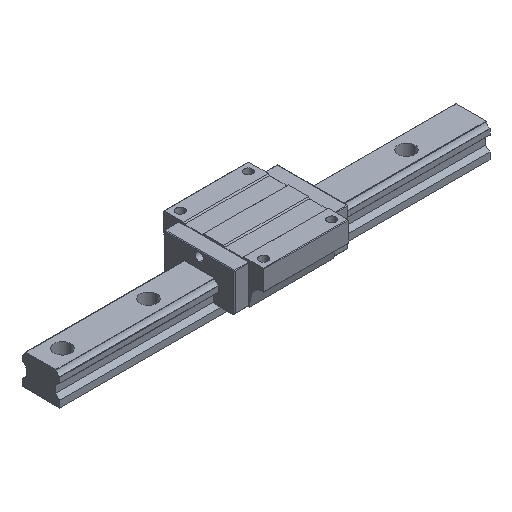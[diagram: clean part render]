
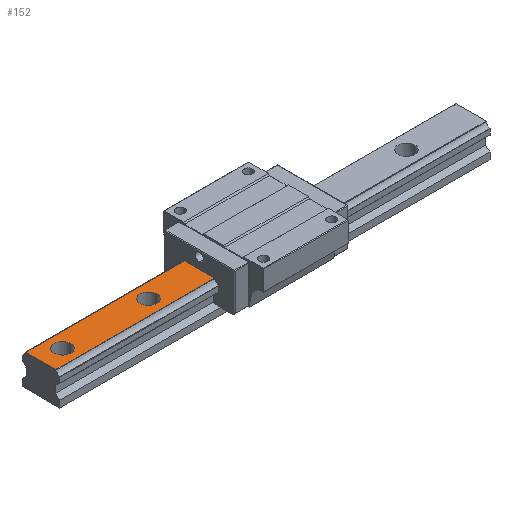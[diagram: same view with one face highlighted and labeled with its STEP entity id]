
A CAD part, isometric view. The second image highlights one B-rep face of the part: STEP entity #152.
In plain terms, the highlighted planar face has unit normal (0, 0, 1).
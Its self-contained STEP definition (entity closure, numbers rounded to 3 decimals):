
#61 = CIRCLE ( 'NONE', #1529, 11.5 ) ;
#152 = ADVANCED_FACE ( 'NONE', ( #3459, #5338, #1133 ), #684, .F. ) ;
#210 = CARTESIAN_POINT ( 'NONE',  ( -79.2, -20.932, 44. ) ) ;
#385 = CIRCLE ( 'NONE', #4496, 11.5 ) ;
#436 = DIRECTION ( 'NONE',  ( -1., 0., 0. ) ) ;
#474 = ORIENTED_EDGE ( 'NONE', *, *, #1862, .T. ) ;
#684 = PLANE ( 'NONE',  #5119 ) ;
#702 = VERTEX_POINT ( 'NONE', #4248 ) ;
#1049 = CARTESIAN_POINT ( 'NONE',  ( -270., 0., 44. ) ) ;
#1113 = DIRECTION ( 'NONE',  ( 0., -1., 0. ) ) ;
#1133 = FACE_OUTER_BOUND ( 'NONE', #3842, .T. ) ;
#1290 = CARTESIAN_POINT ( 'NONE',  ( -79.2, 20.932, 44. ) ) ;
#1353 = CARTESIAN_POINT ( 'NONE',  ( 300., 20.932, 44. ) ) ;
#1396 = CARTESIAN_POINT ( 'NONE',  ( -270., 0., 44. ) ) ;
#1467 = EDGE_CURVE ( 'NONE', #2588, #3732, #5406, .T. ) ;
#1510 = CARTESIAN_POINT ( 'NONE',  ( 300., 0., 44. ) ) ;
#1529 = AXIS2_PLACEMENT_3D ( 'NONE', #1396, #5193, #5133 ) ;
#1624 = DIRECTION ( 'NONE',  ( 1., 0., 0. ) ) ;
#1661 = ORIENTED_EDGE ( 'NONE', *, *, #4969, .T. ) ;
#1736 = ORIENTED_EDGE ( 'NONE', *, *, #1467, .T. ) ;
#1755 = AXIS2_PLACEMENT_3D ( 'NONE', #4296, #4325, #3762 ) ;
#1862 = EDGE_CURVE ( 'NONE', #5422, #2588, #5554, .T. ) ;
#1867 = EDGE_LOOP ( 'NONE', ( #2842, #5043 ) ) ;
#2000 = EDGE_LOOP ( 'NONE', ( #6023, #1661 ) ) ;
#2081 = VECTOR ( 'NONE', #1113, 1000. ) ;
#2141 = AXIS2_PLACEMENT_3D ( 'NONE', #2317, #5980, #5513 ) ;
#2317 = CARTESIAN_POINT ( 'NONE',  ( -150., 0., 44. ) ) ;
#2343 = CARTESIAN_POINT ( 'NONE',  ( -138.5, 0., 44. ) ) ;
#2487 = EDGE_CURVE ( 'NONE', #2830, #4533, #4395, .T. ) ;
#2509 = CARTESIAN_POINT ( 'NONE',  ( -79.2, -20.932, 44. ) ) ;
#2544 = DIRECTION ( 'NONE',  ( 0., 0., -1. ) ) ;
#2588 = VERTEX_POINT ( 'NONE', #3430 ) ;
#2830 = VERTEX_POINT ( 'NONE', #2343 ) ;
#2842 = ORIENTED_EDGE ( 'NONE', *, *, #5934, .T. ) ;
#2847 = EDGE_CURVE ( 'NONE', #702, #3699, #61, .T. ) ;
#2877 = DIRECTION ( 'NONE',  ( -1., 0., 0. ) ) ;
#2912 = DIRECTION ( 'NONE',  ( 0., 0., -1. ) ) ;
#3327 = EDGE_CURVE ( 'NONE', #5422, #5256, #4861, .T. ) ;
#3399 = CARTESIAN_POINT ( 'NONE',  ( -258.5, 0., 44. ) ) ;
#3430 = CARTESIAN_POINT ( 'NONE',  ( -300., 20.932, 44. ) ) ;
#3459 = FACE_BOUND ( 'NONE', #2000, .T. ) ;
#3465 = DIRECTION ( 'NONE',  ( 0., -1., 0. ) ) ;
#3513 = LINE ( 'NONE', #4514, #4865 ) ;
#3699 = VERTEX_POINT ( 'NONE', #3399 ) ;
#3732 = VERTEX_POINT ( 'NONE', #5312 ) ;
#3762 = DIRECTION ( 'NONE',  ( -1., 0., 0. ) ) ;
#3842 = EDGE_LOOP ( 'NONE', ( #5778, #4979, #474, #1736 ) ) ;
#4248 = CARTESIAN_POINT ( 'NONE',  ( -281.5, 0., 44. ) ) ;
#4296 = CARTESIAN_POINT ( 'NONE',  ( -150., 0., 44. ) ) ;
#4325 = DIRECTION ( 'NONE',  ( 0., 0., -1. ) ) ;
#4359 = EDGE_CURVE ( 'NONE', #3732, #5256, #3513, .T. ) ;
#4367 = CARTESIAN_POINT ( 'NONE',  ( -300., 0., 44. ) ) ;
#4395 = CIRCLE ( 'NONE', #1755, 11.5 ) ;
#4426 = DIRECTION ( 'NONE',  ( 0., -1., 0. ) ) ;
#4496 = AXIS2_PLACEMENT_3D ( 'NONE', #1049, #2912, #2877 ) ;
#4514 = CARTESIAN_POINT ( 'NONE',  ( 300., -20.932, 44. ) ) ;
#4533 = VERTEX_POINT ( 'NONE', #4683 ) ;
#4683 = CARTESIAN_POINT ( 'NONE',  ( -161.5, 0., 44. ) ) ;
#4861 = LINE ( 'NONE', #210, #5097 ) ;
#4865 = VECTOR ( 'NONE', #1624, 1000. ) ;
#4969 = EDGE_CURVE ( 'NONE', #3699, #702, #385, .T. ) ;
#4979 = ORIENTED_EDGE ( 'NONE', *, *, #3327, .F. ) ;
#5043 = ORIENTED_EDGE ( 'NONE', *, *, #2487, .T. ) ;
#5097 = VECTOR ( 'NONE', #3465, 1000. ) ;
#5119 = AXIS2_PLACEMENT_3D ( 'NONE', #1510, #2544, #4426 ) ;
#5133 = DIRECTION ( 'NONE',  ( -1., 0., 0. ) ) ;
#5193 = DIRECTION ( 'NONE',  ( 0., 0., -1. ) ) ;
#5256 = VERTEX_POINT ( 'NONE', #2509 ) ;
#5310 = VECTOR ( 'NONE', #436, 1000. ) ;
#5312 = CARTESIAN_POINT ( 'NONE',  ( -300., -20.932, 44. ) ) ;
#5338 = FACE_BOUND ( 'NONE', #1867, .T. ) ;
#5364 = CIRCLE ( 'NONE', #2141, 11.5 ) ;
#5406 = LINE ( 'NONE', #4367, #2081 ) ;
#5422 = VERTEX_POINT ( 'NONE', #1290 ) ;
#5513 = DIRECTION ( 'NONE',  ( -1., 0., 0. ) ) ;
#5554 = LINE ( 'NONE', #1353, #5310 ) ;
#5778 = ORIENTED_EDGE ( 'NONE', *, *, #4359, .T. ) ;
#5934 = EDGE_CURVE ( 'NONE', #4533, #2830, #5364, .T. ) ;
#5980 = DIRECTION ( 'NONE',  ( 0., 0., -1. ) ) ;
#6023 = ORIENTED_EDGE ( 'NONE', *, *, #2847, .T. ) ;
